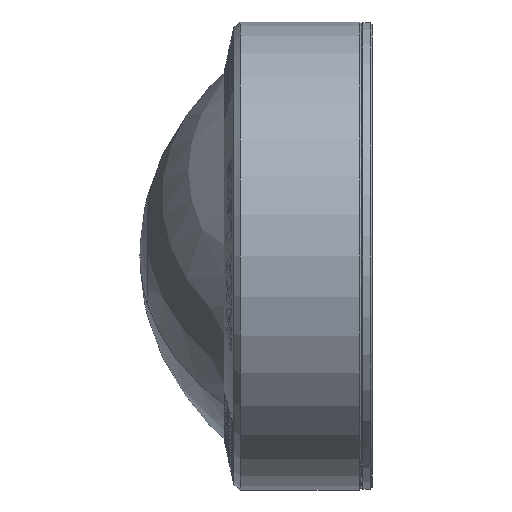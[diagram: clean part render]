
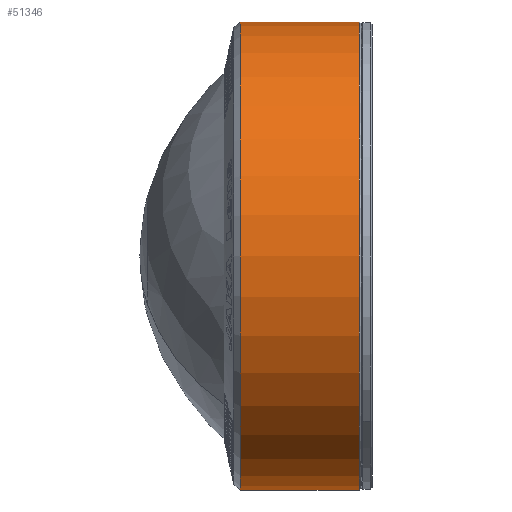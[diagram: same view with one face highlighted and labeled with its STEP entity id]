
A CAD part, left-side view. The second image highlights one B-rep face of the part: STEP entity #51346.
In plain terms, the highlighted cylindrical face has radius 64 mm (diameter 128 mm), a partial arc.
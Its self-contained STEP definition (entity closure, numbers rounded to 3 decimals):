
#39 = CIRCLE ( 'NONE', #53688, 64. ) ;
#2123 = EDGE_CURVE ( 'NONE', #63026, #63854, #39, .T. ) ;
#6011 = CARTESIAN_POINT ( 'NONE',  ( 48.952, 79.259, 34.909 ) ) ;
#10907 = CYLINDRICAL_SURFACE ( 'NONE', #38563, 64. ) ;
#13503 = CARTESIAN_POINT ( 'NONE',  ( 48.952, 79.259, 98.909 ) ) ;
#19898 = CARTESIAN_POINT ( 'NONE',  ( 48.952, 74.759, 98.909 ) ) ;
#21201 = CARTESIAN_POINT ( 'NONE',  ( 48.952, 79.259, 162.909 ) ) ;
#21826 = EDGE_LOOP ( 'NONE', ( #72058, #60672, #84078, #74867 ) ) ;
#25176 = CARTESIAN_POINT ( 'NONE',  ( 48.952, 42.259, 98.909 ) ) ;
#26465 = DIRECTION ( 'NONE',  ( 0., 0., 1. ) ) ;
#26615 = DIRECTION ( 'NONE',  ( 0., -1., 0. ) ) ;
#27024 = CIRCLE ( 'NONE', #38179, 64. ) ;
#31747 = CARTESIAN_POINT ( 'NONE',  ( 48.952, 74.759, 162.909 ) ) ;
#31749 = DIRECTION ( 'NONE',  ( 0., 0., 1. ) ) ;
#32542 = EDGE_CURVE ( 'NONE', #69087, #63026, #52133, .T. ) ;
#32906 = DIRECTION ( 'NONE',  ( 0., 0., -1. ) ) ;
#33565 = CARTESIAN_POINT ( 'NONE',  ( 48.952, 74.759, 34.909 ) ) ;
#35285 = VERTEX_POINT ( 'NONE', #31747 ) ;
#36607 = CARTESIAN_POINT ( 'NONE',  ( 48.952, 42.259, 162.909 ) ) ;
#38179 = AXIS2_PLACEMENT_3D ( 'NONE', #19898, #65618, #26465 ) ;
#38563 = AXIS2_PLACEMENT_3D ( 'NONE', #13503, #26615, #32906 ) ;
#50069 = VECTOR ( 'NONE', #84232, 1000. ) ;
#51346 = ADVANCED_FACE ( 'NONE', ( #51825 ), #10907, .T. ) ;
#51825 = FACE_OUTER_BOUND ( 'NONE', #21826, .T. ) ;
#52133 = LINE ( 'NONE', #6011, #50069 ) ;
#53688 = AXIS2_PLACEMENT_3D ( 'NONE', #25176, #70915, #31749 ) ;
#54084 = DIRECTION ( 'NONE',  ( 0., -1., 0. ) ) ;
#54801 = VECTOR ( 'NONE', #54084, 1000. ) ;
#60672 = ORIENTED_EDGE ( 'NONE', *, *, #65235, .T. ) ;
#63026 = VERTEX_POINT ( 'NONE', #78195 ) ;
#63854 = VERTEX_POINT ( 'NONE', #36607 ) ;
#65235 = EDGE_CURVE ( 'NONE', #35285, #69087, #27024, .T. ) ;
#65618 = DIRECTION ( 'NONE',  ( 0., -1., 0. ) ) ;
#69087 = VERTEX_POINT ( 'NONE', #33565 ) ;
#70915 = DIRECTION ( 'NONE',  ( 0., 1., 0. ) ) ;
#72058 = ORIENTED_EDGE ( 'NONE', *, *, #78221, .F. ) ;
#72176 = LINE ( 'NONE', #21201, #54801 ) ;
#74867 = ORIENTED_EDGE ( 'NONE', *, *, #2123, .T. ) ;
#78195 = CARTESIAN_POINT ( 'NONE',  ( 48.952, 42.259, 34.909 ) ) ;
#78221 = EDGE_CURVE ( 'NONE', #35285, #63854, #72176, .T. ) ;
#84078 = ORIENTED_EDGE ( 'NONE', *, *, #32542, .T. ) ;
#84232 = DIRECTION ( 'NONE',  ( 0., -1., 0. ) ) ;
